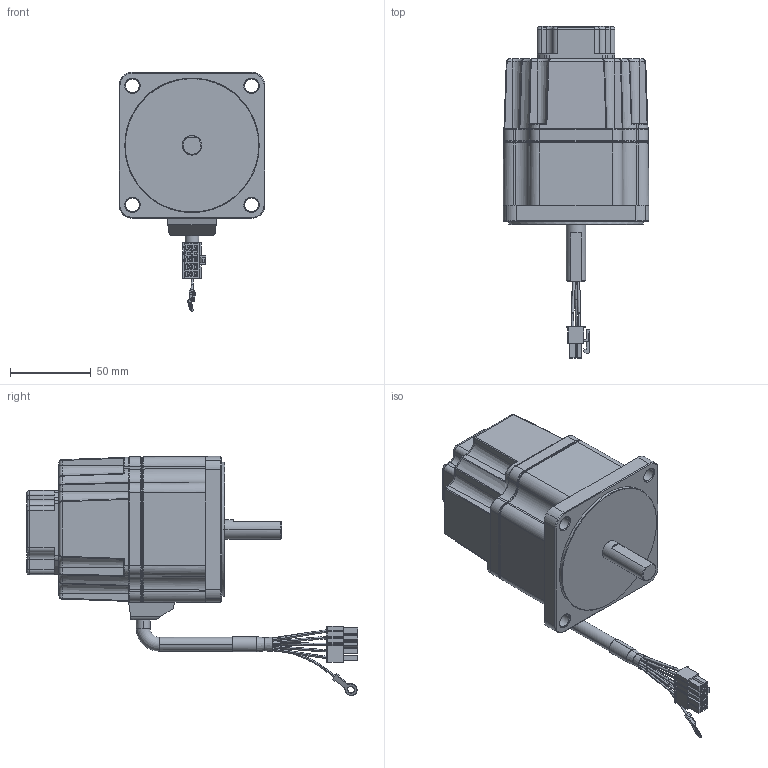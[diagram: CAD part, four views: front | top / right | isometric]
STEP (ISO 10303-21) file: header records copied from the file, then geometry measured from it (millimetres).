
FILE_DESCRIPTION (( 'STEP AP214' ), '1' );
FILE_NAME ('B Series 90w_brake_encoder_S.STEP', '2023-08-16T06:47:54', ( '' ), ( '' ), 'SwSTEP 2.0', 'SolidWorks 2022', '' );
FILE_SCHEMA (( 'AUTOMOTIVE_DESIGN' ));
Length unit declared in the file: millimetre
Products named in the file (7): LEAD BUSH.stp; B Series 90w_brake_encoder_S; B Series 90w_brake_S.stp; K9BS90N﹤.stp; ENCODER COVER ASS''Y; K9 BRAKE COVER.stp; ENCODER COVER
Assembly tree (6 placements, depth 3):
  B Series 90w_brake_encoder_S
    B Series 90w_brake_S.stp
      K9 BRAKE COVER.stp
      K9BS90N﹤.stp
    ENCODER COVER ASS''Y
      LEAD BUSH.stp
      ENCODER COVER
Bounding box: 90 x 204.9 x 147.65 mm (x, y, z)
Volume: 497471.9 mm3; surface area: 112274.2 mm2
Topology: 5 solids, 5 shells, 1800 faces, 4733 edges, 2925 vertices
Faces by surface type: plane 823, cylinder 485, bspline 255, torus 136, cone 85, sphere 16
Entity records: 66535 total; most frequent: CARTESIAN_POINT 27037, ORIENTED_EDGE 9382, DIRECTION 6086, EDGE_CURVE 4691, VERTEX_POINT 2925, AXIS2_PLACEMENT_3D 2430, B_SPLINE_CURVE_WITH_KNOTS 2393, EDGE_LOOP 1914
